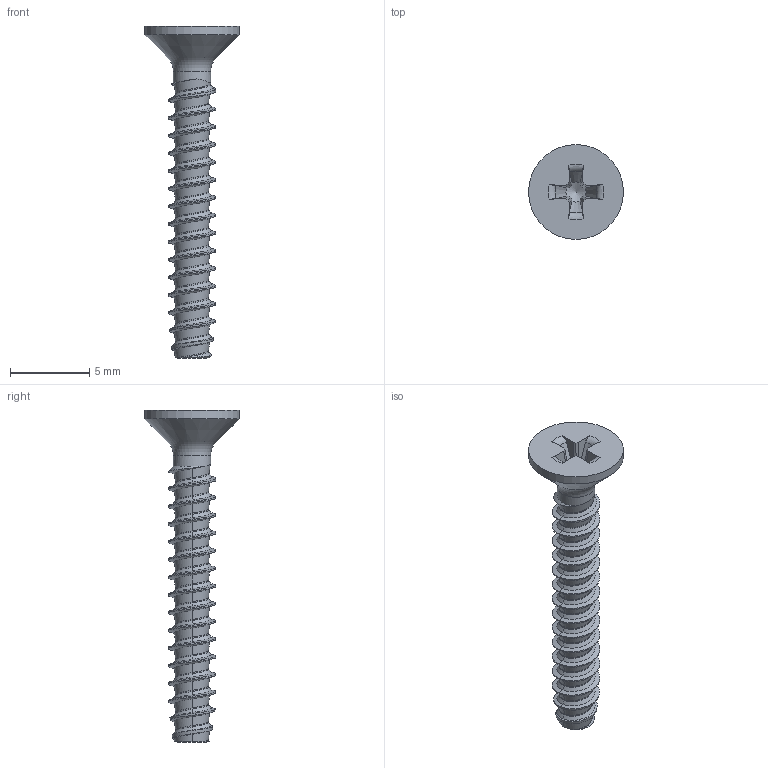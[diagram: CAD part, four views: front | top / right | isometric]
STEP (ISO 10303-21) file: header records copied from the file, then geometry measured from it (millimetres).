
FILE_DESCRIPTION(/* description */ (''),/* implementation_level */ '2;1');
FILE_NAME(/* name */ 'KN6041-STSplus-30x21-H1.step',/* time_stamp */ '2017-10-12T11:30:06+02:00',/* author */ (''),/* organization */ (''),/* preprocessor_version */ 'ST-DEVELOPER v16',/* originating_system */ 'SIEMENS PLM Software NX 10.0',/* authorisation */ '');
FILE_SCHEMA (('AUTOMOTIVE_DESIGN { 1 0 10303 214 3 1 1 1 }'));
Length unit declared in the file: millimetre
Products named in the file (1): KN6041-STSplus-30x21-H1
Bounding box: 6 x 6 x 21 mm (x, y, z)
Surface area: 290.6 mm2 (no closed solid volume)
Topology: 0 solids, 1 shells, 117 faces, 285 edges, 169 vertices
Faces by surface type: bspline 82, plane 18, cone 8, torus 6, cylinder 3
Full cylindrical faces by diameter (mm): 2.35 x1, 6 x1
Entity records: 7730 total; most frequent: CARTESIAN_POINT 5592, ORIENTED_EDGE 542, EDGE_CURVE 271, DIRECTION 219, VERTEX_POINT 163, B_SPLINE_CURVE_WITH_KNOTS 145, EDGE_LOOP 123, ADVANCED_FACE 117
